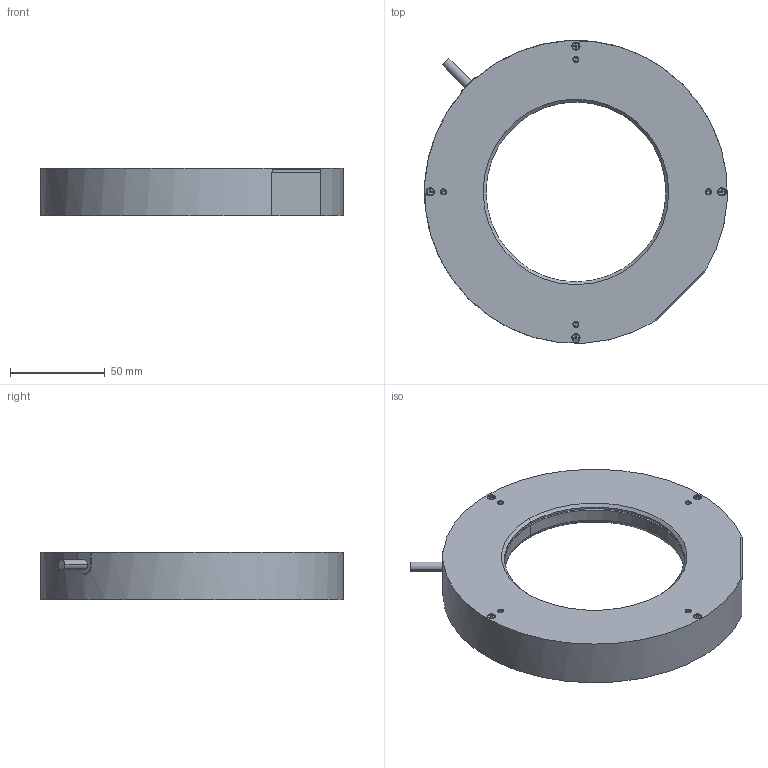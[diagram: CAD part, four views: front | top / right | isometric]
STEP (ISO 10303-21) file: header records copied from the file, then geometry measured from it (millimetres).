
FILE_DESCRIPTION((''),'2;1');
FILE_NAME('160-60','2024-03-29T18:02:51',('qiaoxuan5'),(''),'CREO PARAMETRIC BY PTC INC, 2020044','CREO PARAMETRIC BY PTC INC, 2020044','');
FILE_SCHEMA(('CONFIG_CONTROL_DESIGN'));
Length unit declared in the file: millimetre
Products named in the file (1): 160-60
Bounding box: 159.81 x 159.81 x 25 mm (x, y, z)
Volume: 162442.7 mm3; surface area: 74834.2 mm2
Topology: 1 solids, 9 shells, 470 faces, 1075 edges, 631 vertices
Faces by surface type: plane 246, cylinder 133, cone 62, torus 25, sphere 4
Entity records: 13588 total; most frequent: CARTESIAN_POINT 2992, DIRECTION 2242, ORIENTED_EDGE 2126, EDGE_CURVE 1063, AXIS2_PLACEMENT_3D 801, VECTOR 640, LINE 640, VERTEX_POINT 631
